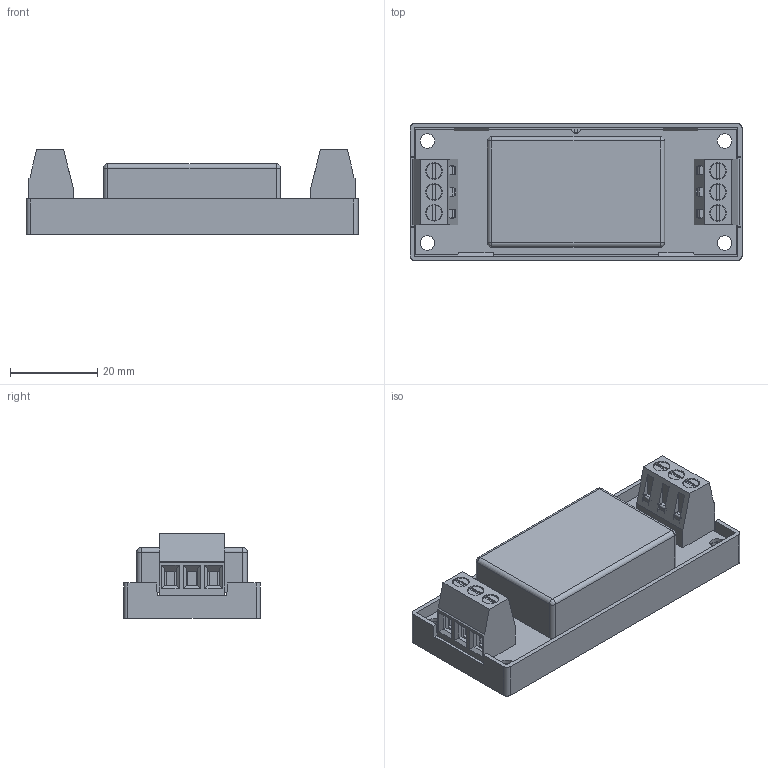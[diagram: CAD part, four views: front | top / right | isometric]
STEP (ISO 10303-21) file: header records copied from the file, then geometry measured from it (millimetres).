
FILE_DESCRIPTION (( 'STEP AP214' ), '1' );
FILE_NAME ('_DTJ15+DTJ20-3D-01.STEP', '2020-02-20T10:38:12', ( '' ), ( '' ), 'SwSTEP 2.0', 'SolidWorks 2017', '' );
FILE_SCHEMA (( 'AUTOMOTIVE_DESIGN' ));
Length unit declared in the file: millimetre
Products named in the file (11): CONNECTOR; BASE; PCB; MOD; PCB_ASSY; _DTJ15+DTJ20-3D-01
Assembly tree (6 placements, depth 3):
  BASE
  PCB
  CONNECTOR
  MOD
  CONNECTOR
Bounding box: 76.2 x 31.4 x 19.4 mm (x, y, z)
Volume: 19418.2 mm3; surface area: 20573.7 mm2
Topology: 5 solids, 5 shells, 780 faces, 2144 edges, 1388 vertices
Faces by surface type: plane 611, cylinder 149, bspline 12, cone 8
Entity records: 19092 total; most frequent: CARTESIAN_POINT 2979, ORIENTED_EDGE 2662, DIRECTION 2495, EDGE_CURVE 1331, LINE 1091, VECTOR 1091, VERTEX_POINT 870, AXIS2_PLACEMENT_3D 702
